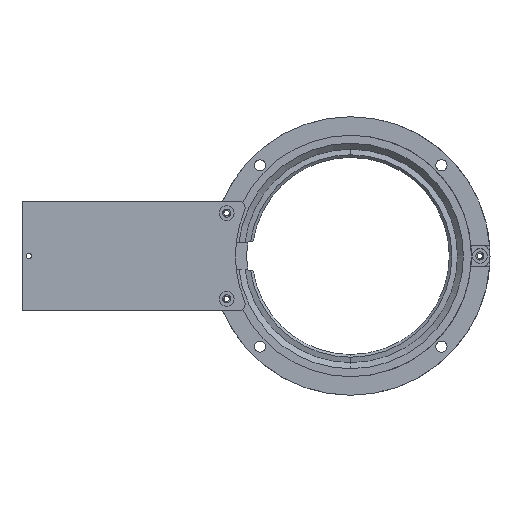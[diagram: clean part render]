
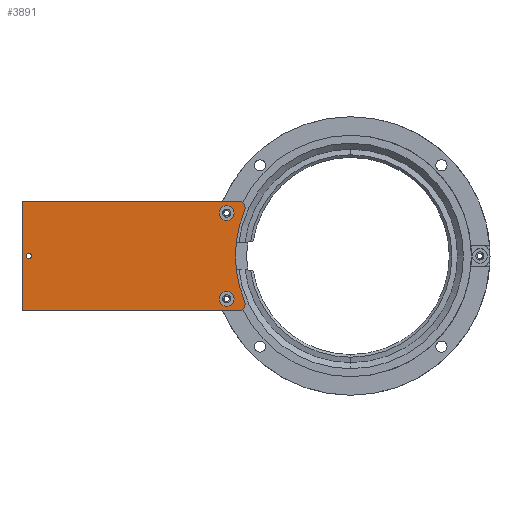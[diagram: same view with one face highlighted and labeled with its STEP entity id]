
A CAD part, top view. The second image highlights one B-rep face of the part: STEP entity #3891.
In plain terms, the highlighted planar face has unit normal (0, 0, 1).
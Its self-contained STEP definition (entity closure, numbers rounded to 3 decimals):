
#34 = DIRECTION ( 'NONE',  ( 0., 0., 1. ) ) ;
#50 = EDGE_CURVE ( 'NONE', #1710, #2779, #5456, .T. ) ;
#78 = AXIS2_PLACEMENT_3D ( 'NONE', #3785, #575, #5489 ) ;
#253 = PLANE ( 'NONE',  #5794 ) ;
#334 = EDGE_CURVE ( 'NONE', #5977, #2614, #3386, .T. ) ;
#366 = CARTESIAN_POINT ( 'NONE',  ( 16.475, -5.2, 38.42 ) ) ;
#410 = CARTESIAN_POINT ( 'NONE',  ( 19.275, -21.45, 38.42 ) ) ;
#445 = ORIENTED_EDGE ( 'NONE', *, *, #2182, .F. ) ;
#449 = VERTEX_POINT ( 'NONE', #1756 ) ;
#506 = CARTESIAN_POINT ( 'NONE',  ( 79.275, -8.75, 38.42 ) ) ;
#515 = CIRCLE ( 'NONE', #4662, 2. ) ;
#575 = DIRECTION ( 'NONE',  ( 0., 0., 1. ) ) ;
#586 = CARTESIAN_POINT ( 'NONE',  ( 77.075, -8.75, 38.42 ) ) ;
#638 = CIRCLE ( 'NONE', #2458, 0.8 ) ;
#699 = CARTESIAN_POINT ( 'NONE',  ( 80.572, -5.2, 38.42 ) ) ;
#792 = FACE_BOUND ( 'NONE', #4549, .T. ) ;
#863 = AXIS2_PLACEMENT_3D ( 'NONE', #5999, #2823, #3319 ) ;
#878 = CIRCLE ( 'NONE', #6833, 34.5 ) ;
#903 = LINE ( 'NONE', #1963, #5938 ) ;
#916 = ORIENTED_EDGE ( 'NONE', *, *, #2572, .F. ) ;
#960 = EDGE_LOOP ( 'NONE', ( #445, #1359 ) ) ;
#1129 = DIRECTION ( 'NONE',  ( -1., 0., 0. ) ) ;
#1133 = CARTESIAN_POINT ( 'NONE',  ( 80.572, -7.2, 38.42 ) ) ;
#1237 = ORIENTED_EDGE ( 'NONE', *, *, #2264, .F. ) ;
#1358 = DIRECTION ( 'NONE',  ( 1., 0., 0. ) ) ;
#1359 = ORIENTED_EDGE ( 'NONE', *, *, #2132, .F. ) ;
#1431 = DIRECTION ( 'NONE',  ( 0., 1., 0. ) ) ;
#1517 = EDGE_CURVE ( 'NONE', #2779, #3092, #2022, .T. ) ;
#1585 = VERTEX_POINT ( 'NONE', #1625 ) ;
#1625 = CARTESIAN_POINT ( 'NONE',  ( 82.413, -34.919, 38.42 ) ) ;
#1641 = CARTESIAN_POINT ( 'NONE',  ( 114.175, -21.45, 38.42 ) ) ;
#1661 = DIRECTION ( 'NONE',  ( -1., 0., 0. ) ) ;
#1707 = CARTESIAN_POINT ( 'NONE',  ( 82.413, -7.981, 38.42 ) ) ;
#1710 = VERTEX_POINT ( 'NONE', #1707 ) ;
#1756 = CARTESIAN_POINT ( 'NONE',  ( 74.875, -34.15, 38.42 ) ) ;
#1777 = ORIENTED_EDGE ( 'NONE', *, *, #3750, .T. ) ;
#1786 = AXIS2_PLACEMENT_3D ( 'NONE', #3849, #6518, #4413 ) ;
#1883 = CIRCLE ( 'NONE', #6934, 2.2 ) ;
#1904 = CARTESIAN_POINT ( 'NONE',  ( 16.475, -37.7, 38.42 ) ) ;
#1963 = CARTESIAN_POINT ( 'NONE',  ( 16.475, -37.7, 38.42 ) ) ;
#2013 = VERTEX_POINT ( 'NONE', #4700 ) ;
#2022 = LINE ( 'NONE', #6714, #6466 ) ;
#2091 = CARTESIAN_POINT ( 'NONE',  ( 18.475, -21.45, 38.42 ) ) ;
#2115 = CIRCLE ( 'NONE', #4539, 0.8 ) ;
#2132 = EDGE_CURVE ( 'NONE', #6523, #5171, #1883, .T. ) ;
#2162 = CARTESIAN_POINT ( 'NONE',  ( 18.475, -21.45, 38.42 ) ) ;
#2163 = EDGE_CURVE ( 'NONE', #5108, #449, #4895, .T. ) ;
#2182 = EDGE_CURVE ( 'NONE', #5171, #6523, #4124, .T. ) ;
#2264 = EDGE_CURVE ( 'NONE', #2614, #3092, #903, .T. ) ;
#2390 = ORIENTED_EDGE ( 'NONE', *, *, #1517, .T. ) ;
#2456 = CARTESIAN_POINT ( 'NONE',  ( 77.075, -8.75, 38.42 ) ) ;
#2458 = AXIS2_PLACEMENT_3D ( 'NONE', #2162, #3805, #2733 ) ;
#2572 = EDGE_CURVE ( 'NONE', #1710, #2723, #878, .T. ) ;
#2587 = EDGE_CURVE ( 'NONE', #449, #5108, #3164, .T. ) ;
#2605 = EDGE_CURVE ( 'NONE', #2723, #1585, #5947, .T. ) ;
#2614 = VERTEX_POINT ( 'NONE', #5928 ) ;
#2723 = VERTEX_POINT ( 'NONE', #4057 ) ;
#2733 = DIRECTION ( 'NONE',  ( 1., 0., 0. ) ) ;
#2779 = VERTEX_POINT ( 'NONE', #699 ) ;
#2823 = DIRECTION ( 'NONE',  ( 0., 0., 1. ) ) ;
#2838 = DIRECTION ( 'NONE',  ( 0., 0., 1. ) ) ;
#2898 = VECTOR ( 'NONE', #5510, 1000. ) ;
#2934 = DIRECTION ( 'NONE',  ( 1., 0., 0. ) ) ;
#2957 = FACE_BOUND ( 'NONE', #960, .T. ) ;
#3084 = CARTESIAN_POINT ( 'NONE',  ( 80.572, -35.7, 38.42 ) ) ;
#3088 = DIRECTION ( 'NONE',  ( 1., 0., 0. ) ) ;
#3092 = VERTEX_POINT ( 'NONE', #366 ) ;
#3164 = CIRCLE ( 'NONE', #78, 2.2 ) ;
#3271 = CARTESIAN_POINT ( 'NONE',  ( 80.572, -37.7, 38.42 ) ) ;
#3312 = DIRECTION ( 'NONE',  ( 1., 0., 0. ) ) ;
#3319 = DIRECTION ( 'NONE',  ( -1., 0., 0. ) ) ;
#3377 = DIRECTION ( 'NONE',  ( 0., 0., 1. ) ) ;
#3386 = LINE ( 'NONE', #5042, #2898 ) ;
#3629 = ORIENTED_EDGE ( 'NONE', *, *, #4711, .T. ) ;
#3750 = EDGE_CURVE ( 'NONE', #5977, #1585, #515, .T. ) ;
#3768 = ORIENTED_EDGE ( 'NONE', *, *, #5373, .T. ) ;
#3785 = CARTESIAN_POINT ( 'NONE',  ( 77.075, -34.15, 38.42 ) ) ;
#3805 = DIRECTION ( 'NONE',  ( 0., 0., -1. ) ) ;
#3844 = ORIENTED_EDGE ( 'NONE', *, *, #2587, .F. ) ;
#3849 = CARTESIAN_POINT ( 'NONE',  ( 114.175, -21.45, 38.42 ) ) ;
#3891 = ADVANCED_FACE ( 'NONE', ( #792, #2957, #3960, #5066 ), #253, .F. ) ;
#3960 = FACE_BOUND ( 'NONE', #4117, .T. ) ;
#4057 = CARTESIAN_POINT ( 'NONE',  ( 79.675, -21.45, 38.42 ) ) ;
#4090 = VERTEX_POINT ( 'NONE', #410 ) ;
#4117 = EDGE_LOOP ( 'NONE', ( #3844, #4971 ) ) ;
#4124 = CIRCLE ( 'NONE', #4997, 2.2 ) ;
#4168 = EDGE_LOOP ( 'NONE', ( #916, #6425, #2390, #1237, #5858, #1777, #5822 ) ) ;
#4214 = DIRECTION ( 'NONE',  ( 0., 0., -1. ) ) ;
#4275 = DIRECTION ( 'NONE',  ( -1., 0., 0. ) ) ;
#4413 = DIRECTION ( 'NONE',  ( -1., 0., 0. ) ) ;
#4486 = CARTESIAN_POINT ( 'NONE',  ( 79.275, -34.15, 38.42 ) ) ;
#4539 = AXIS2_PLACEMENT_3D ( 'NONE', #2091, #4214, #3088 ) ;
#4549 = EDGE_LOOP ( 'NONE', ( #3768, #3629 ) ) ;
#4635 = CARTESIAN_POINT ( 'NONE',  ( 74.875, -8.75, 38.42 ) ) ;
#4662 = AXIS2_PLACEMENT_3D ( 'NONE', #3084, #5586, #2934 ) ;
#4700 = CARTESIAN_POINT ( 'NONE',  ( 17.675, -21.45, 38.42 ) ) ;
#4711 = EDGE_CURVE ( 'NONE', #2013, #4090, #638, .T. ) ;
#4895 = CIRCLE ( 'NONE', #863, 2.2 ) ;
#4971 = ORIENTED_EDGE ( 'NONE', *, *, #2163, .F. ) ;
#4997 = AXIS2_PLACEMENT_3D ( 'NONE', #2456, #3377, #5031 ) ;
#5031 = DIRECTION ( 'NONE',  ( -1., 0., 0. ) ) ;
#5042 = CARTESIAN_POINT ( 'NONE',  ( 16.475, -37.7, 38.42 ) ) ;
#5066 = FACE_OUTER_BOUND ( 'NONE', #4168, .T. ) ;
#5108 = VERTEX_POINT ( 'NONE', #4486 ) ;
#5171 = VERTEX_POINT ( 'NONE', #4635 ) ;
#5373 = EDGE_CURVE ( 'NONE', #4090, #2013, #2115, .T. ) ;
#5456 = CIRCLE ( 'NONE', #6372, 2. ) ;
#5489 = DIRECTION ( 'NONE',  ( -1., 0., 0. ) ) ;
#5497 = DIRECTION ( 'NONE',  ( 0., 0., 1. ) ) ;
#5510 = DIRECTION ( 'NONE',  ( -1., 0., 0. ) ) ;
#5586 = DIRECTION ( 'NONE',  ( 0., 0., 1. ) ) ;
#5794 = AXIS2_PLACEMENT_3D ( 'NONE', #1904, #6184, #1358 ) ;
#5822 = ORIENTED_EDGE ( 'NONE', *, *, #2605, .F. ) ;
#5858 = ORIENTED_EDGE ( 'NONE', *, *, #334, .F. ) ;
#5928 = CARTESIAN_POINT ( 'NONE',  ( 16.475, -37.7, 38.42 ) ) ;
#5938 = VECTOR ( 'NONE', #1431, 1000. ) ;
#5947 = CIRCLE ( 'NONE', #1786, 34.5 ) ;
#5977 = VERTEX_POINT ( 'NONE', #3271 ) ;
#5999 = CARTESIAN_POINT ( 'NONE',  ( 77.075, -34.15, 38.42 ) ) ;
#6184 = DIRECTION ( 'NONE',  ( 0., 0., -1. ) ) ;
#6372 = AXIS2_PLACEMENT_3D ( 'NONE', #1133, #5497, #3312 ) ;
#6425 = ORIENTED_EDGE ( 'NONE', *, *, #50, .T. ) ;
#6466 = VECTOR ( 'NONE', #1661, 1000. ) ;
#6518 = DIRECTION ( 'NONE',  ( 0., 0., 1. ) ) ;
#6523 = VERTEX_POINT ( 'NONE', #506 ) ;
#6714 = CARTESIAN_POINT ( 'NONE',  ( 16.475, -5.2, 38.42 ) ) ;
#6833 = AXIS2_PLACEMENT_3D ( 'NONE', #1641, #2838, #1129 ) ;
#6934 = AXIS2_PLACEMENT_3D ( 'NONE', #586, #34, #4275 ) ;
